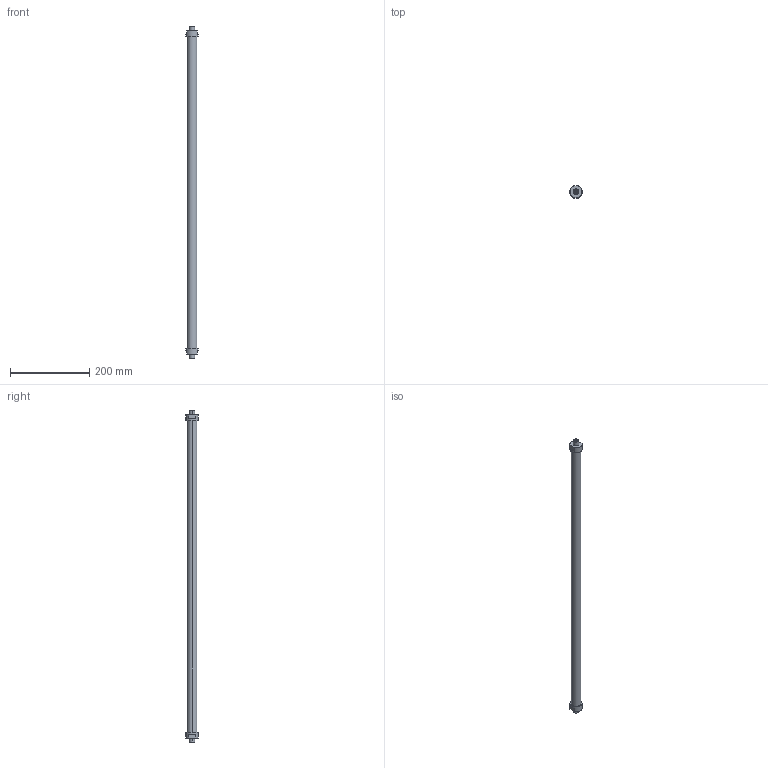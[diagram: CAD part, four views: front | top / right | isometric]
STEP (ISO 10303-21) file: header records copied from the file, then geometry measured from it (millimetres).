
FILE_DESCRIPTION(('STEP AP214'),'1');
FILE_NAME('ETT-R050G824.stp','2015-02-02T13:06:46',(' '),(' '),'Spatial InterOp 3D',' ',' ');
FILE_SCHEMA(('automotive_design'));
Length unit declared in the file: metre
Products named in the file (3): 1; 2; 3
Bounding box: 31 x 31 x 836 mm (x, y, z)
Volume: 386092.5 mm3; surface area: 83677.6 mm2
Topology: 1 solids, 7 shells, 32 faces, 86 edges, 66 vertices
Faces by surface type: cylinder 16, plane 16
Entity records: 1375 total; most frequent: DIRECTION 206, CARTESIAN_POINT 187, ORIENTED_EDGE 148, EDGE_CURVE 86, AXIS2_PLACEMENT_3D 85, VERTEX_POINT 66, CIRCLE 50, EDGE_LOOP 40
